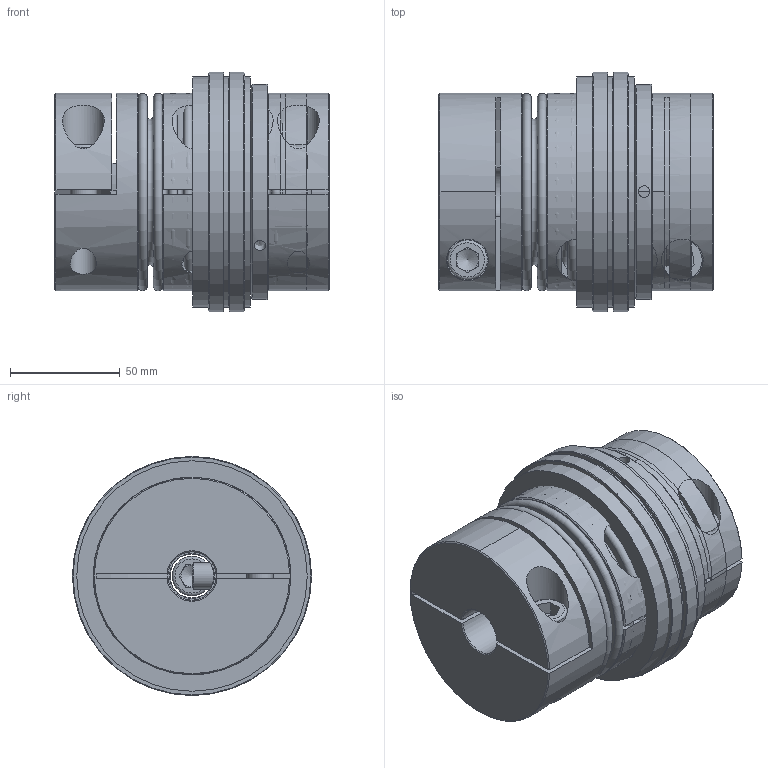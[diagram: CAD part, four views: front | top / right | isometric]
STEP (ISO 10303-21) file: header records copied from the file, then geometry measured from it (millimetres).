
FILE_DESCRIPTION( ( 'Unknown' ), '1' );
FILE_NAME( 'C:/Dokumente und Einstellungen/SKarpstein/Desktop/Korrigierte 3D Modelle/KBK-BKK-200-125.stp', 'Unknown', ( 'Unknown' ), ( 'Unknown' ), 'XStep 1.0', 'Unknown', ' ' );
FILE_SCHEMA( ( 'automotive_design' ) );
Length unit declared in the file: millimetre
Products named in the file (11): Assem1; Assem2; Zylinderschraube DIN 912_2; Stellring 200; Druckring 200; KBK L-K-200 Grundkörper; Klemmnabe 200; Flansch BK200; KN200_Standard_2; Socket Head Cap Screw_DIN_DIN 912 M12 x 35 --- 35N_2; BK200_Standard_0
Bounding box: 124.95 x 109 x 109 mm (x, y, z)
Volume: 1336338.5 mm3; surface area: 404237.4 mm2
Topology: 19 solids, 19 shells, 379 faces, 798 edges, 523 vertices
Faces by surface type: plane 172, cylinder 100, cone 61, torus 46
Full cylindrical faces by diameter (mm): 3.242 x6, 5.2 x12, 10.106 x2, 12 x7, 12.5 x4, 18 x5, 19 x4, 20 x2, 22 x2, 45 x2, 47 x2, 50 x4, 60 x2, 62 x2, 65 x2, 66 x4, 77 x2, 79.2 x4, 80.4 x4, 90 x4, 98 x2, 105 x4, 109 x2
Entity records: 5301 total; most frequent: CARTESIAN_POINT 1414, DIRECTION 779, ORIENTED_EDGE 526, AXIS2_PLACEMENT_3D 353, EDGE_LOOP 326, EDGE_CURVE 263, FACE_OUTER_BOUND 245, VERTEX_POINT 220
